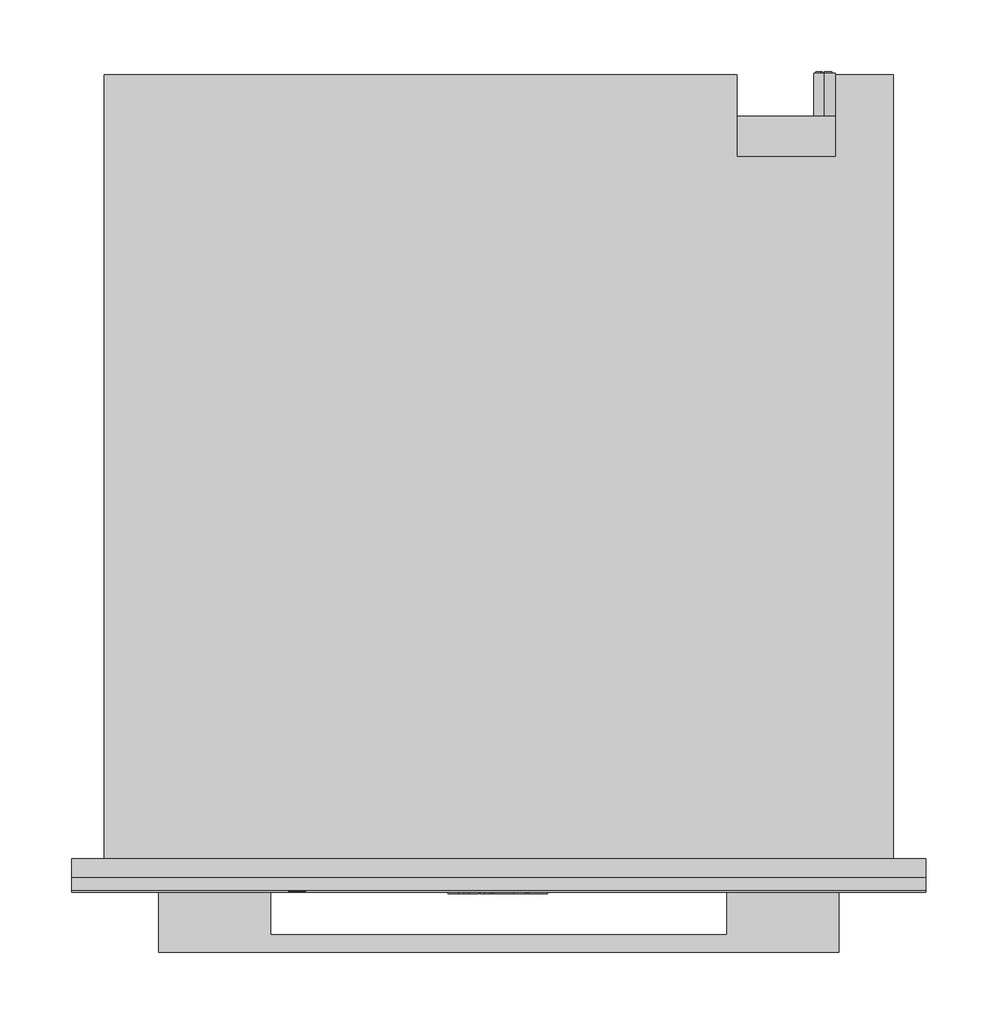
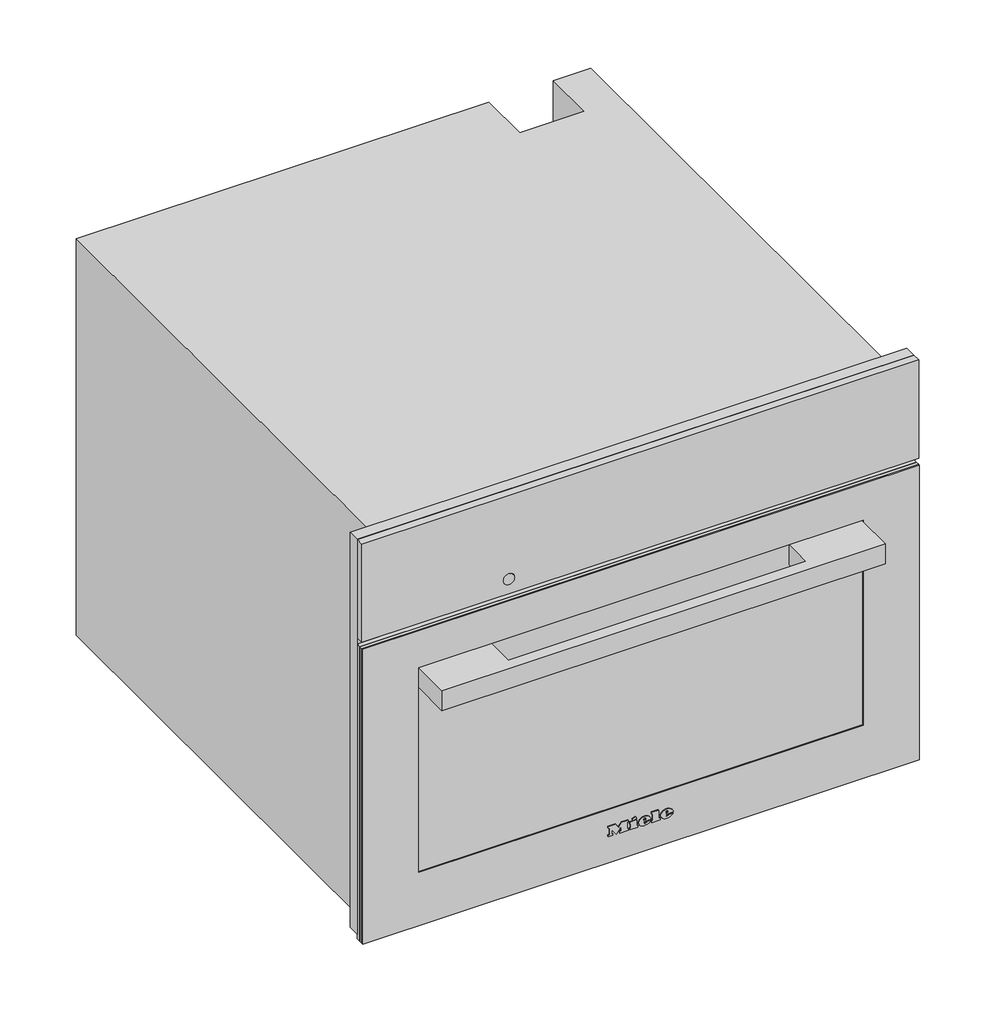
# Not in any storey: 1 proxy.
"""IFC4 building model written with IfcOpenShell, lengths in millimetres."""

from ifc_helpers import new_model, si_unit, origin, place, context, project, spatial, transform, mapped, element, save
from components import specialty_equipment_fc3be20e

model = new_model("IFC4")

# Units and contexts
model_context = context("Model", 3, world=origin())
ifc_project = project(units=[si_unit("LENGTHUNIT", "METRE", prefix="MILLI")], contexts=[model_context])

# Site, building
site = spatial("IfcSite", under=ifc_project)
building = spatial("IfcBuilding", under=site)

# Proxy
placement = place(None, origin())
specialty_equipment_shape = specialty_equipment_fc3be20e(model_context)
element("IfcBuildingElementProxy", 1, Name="12108000_BNE_DGC7340HCPro_EDST-C : 23734048_BNE_12108000_DGC7340HCPro_EDST-C", ObjectType="12108000_BNE_DGC7340HCPro_EDST-C : 23734048_BNE_12108000_DGC7340HCPro_EDST-C", at=placement, inside=building, context=model_context, shape_type="MappedRepresentation", body=[
    mapped(specialty_equipment_shape, transform((0.0, 0.0, 0.0), x_axis=(1.0, 0.0, 0.0), y_axis=(0.0, 1.0, 0.0), z_axis=(0.0, 0.0, 1.0))),
])

save(model, "model.ifc")
